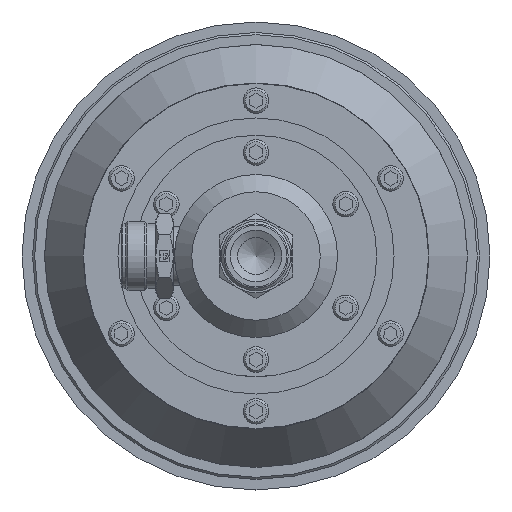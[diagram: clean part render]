
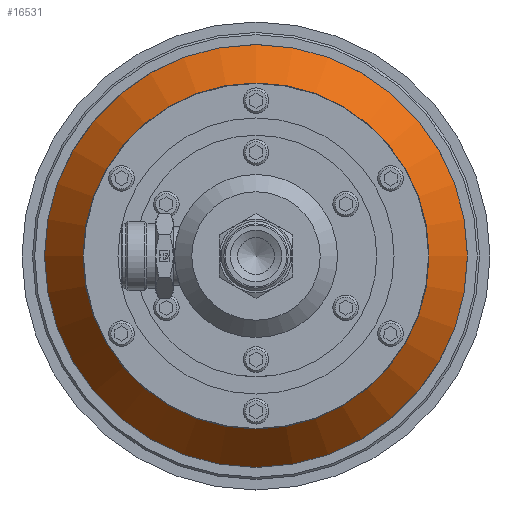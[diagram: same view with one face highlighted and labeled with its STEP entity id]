
A CAD part, front view. The second image highlights one B-rep face of the part: STEP entity #16531.
In plain terms, the highlighted conical face has half-angle 36.3 degrees and reference radius 63.5 mm.
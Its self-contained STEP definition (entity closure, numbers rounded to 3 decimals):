
#2355=ORIENTED_EDGE('',*,*,#4875,.T.);
#2356=ORIENTED_EDGE('',*,*,#4879,.T.);
#4875=EDGE_CURVE('',#6182,#6182,#7169,.T.);
#4879=EDGE_CURVE('',#6186,#6186,#7173,.T.);
#6182=VERTEX_POINT('',#23371);
#6186=VERTEX_POINT('',#23381);
#7169=CIRCLE('',#17467,63.653);
#7173=CIRCLE('',#17473,77.788);
#7961=EDGE_LOOP('',(#2355));
#7962=EDGE_LOOP('',(#2356));
#9320=FACE_BOUND('',#7961,.T.);
#9321=FACE_BOUND('',#7962,.T.);
#10534=CONICAL_SURFACE('',#17474,63.5,0.634);
#16531=ADVANCED_FACE('',(#9320,#9321),#10534,.T.);
#17467=AXIS2_PLACEMENT_3D('',#23370,#19241,#19242);
#17473=AXIS2_PLACEMENT_3D('',#23380,#19253,#19254);
#17474=AXIS2_PLACEMENT_3D('',#23382,#19255,#19256);
#19241=DIRECTION('',(0.,1.,0.));
#19242=DIRECTION('',(0.,0.,1.));
#19253=DIRECTION('',(0.,-1.,0.));
#19254=DIRECTION('',(0.,0.,-1.));
#19255=DIRECTION('',(0.,1.,0.));
#19256=DIRECTION('',(0.,0.,1.));
#23370=CARTESIAN_POINT('',(0.,30.79,0.));
#23371=CARTESIAN_POINT('',(0.,30.79,63.653));
#23380=CARTESIAN_POINT('',(0.,50.032,0.));
#23381=CARTESIAN_POINT('',(0.,50.032,-77.788));
#23382=CARTESIAN_POINT('',(0.,30.582,0.));
